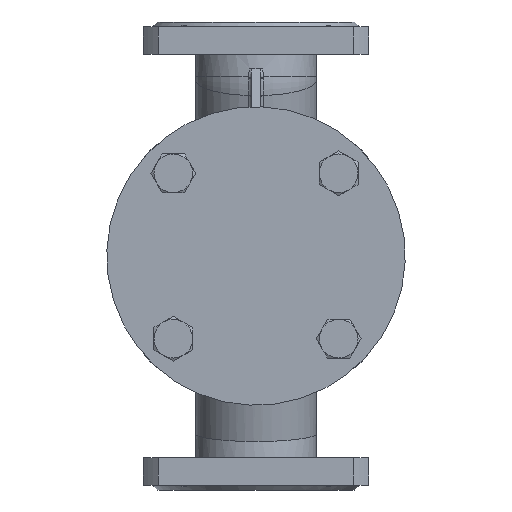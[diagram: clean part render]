
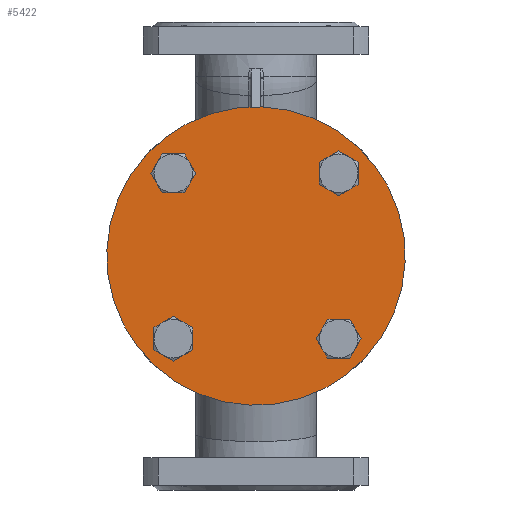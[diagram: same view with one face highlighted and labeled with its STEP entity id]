
A CAD part, front view. The second image highlights one B-rep face of the part: STEP entity #5422.
In plain terms, the highlighted planar face has unit normal (0, -1, 0).
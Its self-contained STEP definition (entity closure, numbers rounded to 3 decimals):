
#5422=ADVANCED_FACE('',(#16820,#16822,#16824,#16826,#16828),#16830,.T.);
#16820=FACE_BOUND('',#16821,.T.);
#16821=EDGE_LOOP('',(#27937));
#16822=FACE_BOUND('',#16823,.T.);
#16823=EDGE_LOOP('',(#27938));
#16824=FACE_BOUND('',#16825,.T.);
#16825=EDGE_LOOP('',(#27939));
#16826=FACE_BOUND('',#16827,.T.);
#16827=EDGE_LOOP('',(#27940));
#16828=FACE_BOUND('',#16829,.T.);
#16829=EDGE_LOOP('',(#27941));
#16830=PLANE('',#16831);
#16831=AXIS2_PLACEMENT_3D('',#16832,#16833,#16834);
#16832=CARTESIAN_POINT('',(0.,-165.,0.));
#16833=DIRECTION('',(0.,-1.,0.));
#16834=DIRECTION('',(0.,0.,-1.));
#27937=ORIENTED_EDGE('',*,*,#32672,.F.);
#27938=ORIENTED_EDGE('',*,*,#32724,.F.);
#27939=ORIENTED_EDGE('',*,*,#32725,.F.);
#27940=ORIENTED_EDGE('',*,*,#32726,.F.);
#27941=ORIENTED_EDGE('',*,*,#32727,.F.);
#32672=EDGE_CURVE('',#38177,#38177,#38178,.T.);
#32724=EDGE_CURVE('',#38265,#38265,#38266,.T.);
#32725=EDGE_CURVE('',#38267,#38267,#38268,.T.);
#32726=EDGE_CURVE('',#38269,#38269,#38270,.T.);
#32727=EDGE_CURVE('',#38271,#38271,#38272,.T.);
#38177=VERTEX_POINT('',#57328);
#38178=CIRCLE('',#57329,92.5);
#38265=VERTEX_POINT('',#57558);
#38266=CIRCLE('',#57559,12.);
#38267=VERTEX_POINT('',#57563);
#38268=CIRCLE('',#57564,12.);
#38269=VERTEX_POINT('',#57568);
#38270=CIRCLE('',#57569,12.);
#38271=VERTEX_POINT('',#57573);
#38272=CIRCLE('',#57574,12.);
#57328=CARTESIAN_POINT('',(85.459,-165.,-35.398));
#57329=AXIS2_PLACEMENT_3D('',#57330,#57331,#57332);
#57330=CARTESIAN_POINT('',(0.,-165.,0.));
#57331=DIRECTION('',(0.,1.,0.));
#57332=DIRECTION('',(0.924,0.,-0.383));
#57558=CARTESIAN_POINT('',(39.265,-165.,51.265));
#57559=AXIS2_PLACEMENT_3D('',#57560,#57561,#57562);
#57560=CARTESIAN_POINT('',(51.265,-165.,51.265));
#57561=DIRECTION('',(0.,-1.,0.));
#57562=DIRECTION('',(-1.,0.,0.));
#57563=CARTESIAN_POINT('',(51.265,-165.,-39.265));
#57564=AXIS2_PLACEMENT_3D('',#57565,#57566,#57567);
#57565=CARTESIAN_POINT('',(51.265,-165.,-51.265));
#57566=DIRECTION('',(0.,-1.,0.));
#57567=DIRECTION('',(0.,0.,1.));
#57568=CARTESIAN_POINT('',(-39.265,-165.,-51.265));
#57569=AXIS2_PLACEMENT_3D('',#57570,#57571,#57572);
#57570=CARTESIAN_POINT('',(-51.265,-165.,-51.265));
#57571=DIRECTION('',(0.,-1.,0.));
#57572=DIRECTION('',(1.,0.,0.));
#57573=CARTESIAN_POINT('',(-51.265,-165.,39.265));
#57574=AXIS2_PLACEMENT_3D('',#57575,#57576,#57577);
#57575=CARTESIAN_POINT('',(-51.265,-165.,51.265));
#57576=DIRECTION('',(0.,-1.,0.));
#57577=DIRECTION('',(0.,0.,-1.));
